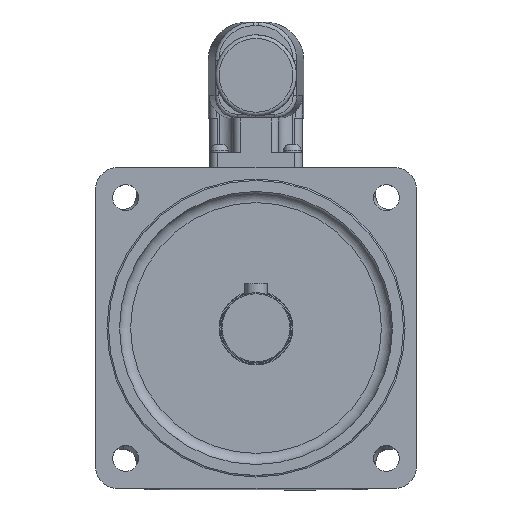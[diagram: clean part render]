
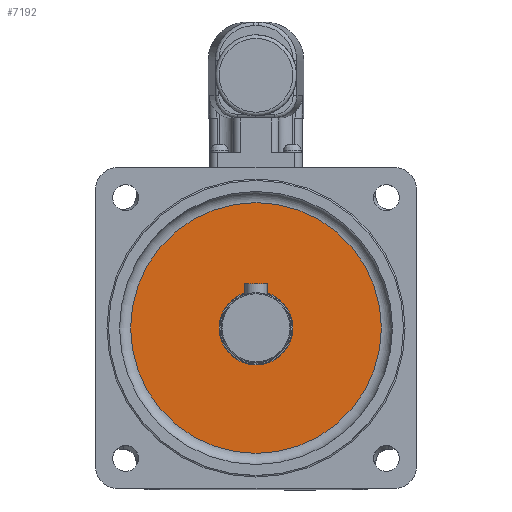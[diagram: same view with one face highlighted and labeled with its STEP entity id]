
A CAD part, top view. The second image highlights one B-rep face of the part: STEP entity #7192.
In plain terms, the highlighted planar face has unit normal (0, 0, 1).
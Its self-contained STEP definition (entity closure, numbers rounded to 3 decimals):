
#7165=CARTESIAN_POINT('',(0.,0.,64.118));
#7166=DIRECTION('',(0.0,0.0,-1.0));
#7167=DIRECTION('',(-1.0,0.0,0.0));
#7168=AXIS2_PLACEMENT_3D('',#7165,#7166,#7167);
#7169=PLANE('',#7168);
#7170=CARTESIAN_POINT('',(34.,0.,64.118));
#7171=VERTEX_POINT('',#7170);
#7172=CARTESIAN_POINT('',(0.,0.,64.118));
#7173=DIRECTION('',(0.0,0.0,-1.0));
#7174=DIRECTION('',(-1.0,0.0,0.0));
#7175=AXIS2_PLACEMENT_3D('',#7172,#7173,#7174);
#7176=CIRCLE('',#7175,34.0);
#7177=EDGE_CURVE('',#7171,#7171,#7176,.T.);
#7178=ORIENTED_EDGE('',*,*,#7177,.F.);
#7179=EDGE_LOOP('',(#7178));
#7180=FACE_OUTER_BOUND('',#7179,.T.);
#7181=CARTESIAN_POINT('',(0.,10.,64.118));
#7182=VERTEX_POINT('',#7181);
#7183=CARTESIAN_POINT('',(0.,0.,64.118));
#7184=DIRECTION('',(0.0,0.0,-1.0));
#7185=DIRECTION('',(0.0,1.0,0.0));
#7186=AXIS2_PLACEMENT_3D('',#7183,#7184,#7185);
#7187=CIRCLE('',#7186,10.);
#7188=EDGE_CURVE('',#7182,#7182,#7187,.T.);
#7189=ORIENTED_EDGE('',*,*,#7188,.T.);
#7190=EDGE_LOOP('',(#7189));
#7191=FACE_BOUND('',#7190,.T.);
#7192=ADVANCED_FACE('',(#7180,#7191),#7169,.F.);
